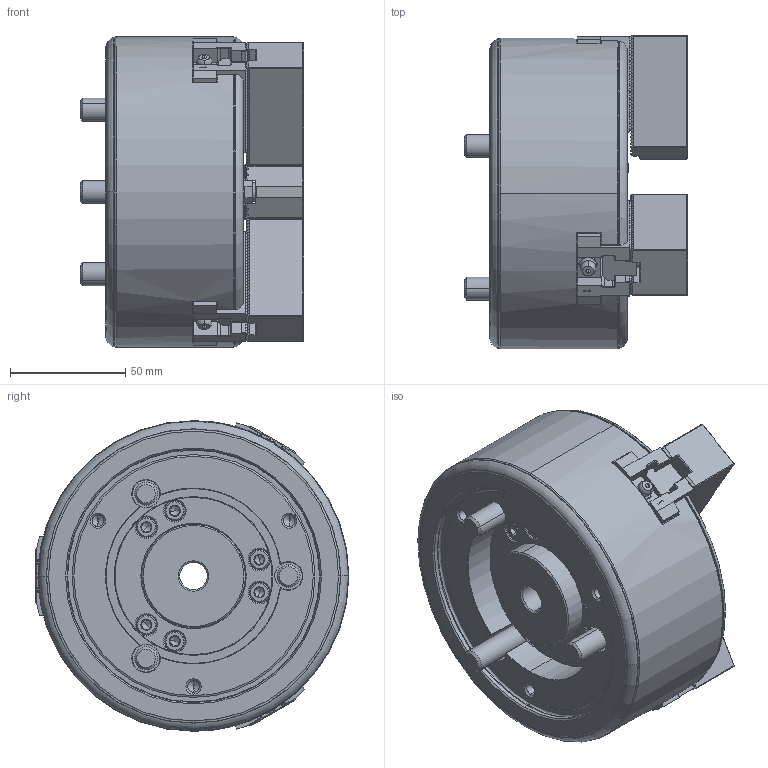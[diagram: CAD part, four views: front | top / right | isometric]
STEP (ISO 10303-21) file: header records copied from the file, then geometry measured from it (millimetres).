
FILE_DESCRIPTION (( 'STEP AP214' ), '1' );
FILE_NAME ('DEV-BR05-OUTSIDE_VIEW_UC.STEP', '2024-06-05T00:30:39', ( '' ), ( '' ), 'SwSTEP 2.0', 'SolidWorks 2022', '' );
FILE_SCHEMA (( 'AUTOMOTIVE_DESIGN' ));
Length unit declared in the file: millimetre
Products named in the file (9): Part2^DEV-BR05-61P866277; DEV-BR05-61P422113; DEV-BR05-61P866266; DEV-BR05-61P422119; DEV-BR05-OUTSIDE_VIEW_UC; DEV-BR05-61P422122; DEV-BR05-0030110060; DEV-BR05-0030108020; DEV-BR05-0033104006
Assembly tree (21 placements, depth 2):
  DEV-BR05-OUTSIDE_VIEW_UC
    DEV-BR05-61P866266
    DEV-BR05-61P422119  x3
    DEV-BR05-61P422113  x3
    DEV-BR05-61P422122
    DEV-BR05-0030110060  x3
    DEV-BR05-0033104006  x3
    DEV-BR05-0030108020  x6
    Part2^DEV-BR05-61P866277
Bounding box: 97 x 136.34 x 135 mm (x, y, z)
Volume: 805903.5 mm3; surface area: 149928 mm2
Topology: 21 solids, 30 shells, 3509 faces, 9768 edges, 6322 vertices
Faces by surface type: plane 2386, cylinder 453, cone 416, bspline 141, torus 100, sphere 13
Entity records: 93979 total; most frequent: CARTESIAN_POINT 24377, ORIENTED_EDGE 15144, DIRECTION 13184, EDGE_CURVE 7572, LINE 5358, VECTOR 5358, VERTEX_POINT 4940, AXIS2_PLACEMENT_3D 3913
